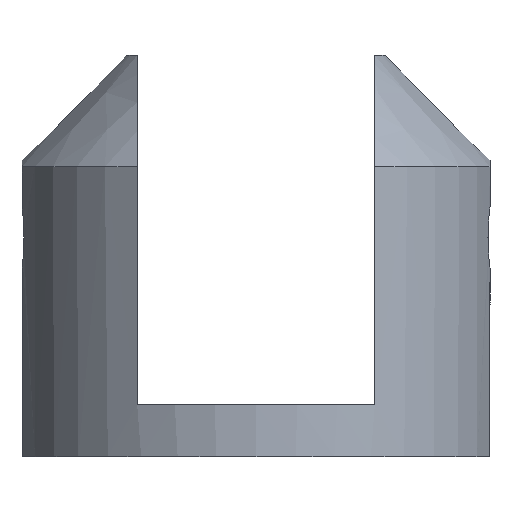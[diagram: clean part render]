
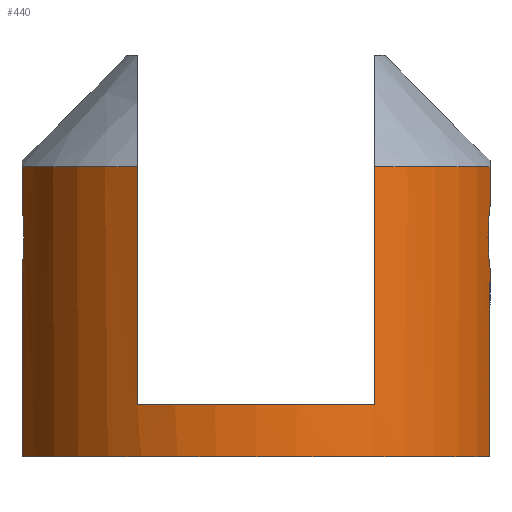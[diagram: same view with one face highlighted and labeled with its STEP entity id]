
A CAD part, left-side view. The second image highlights one B-rep face of the part: STEP entity #440.
In plain terms, the highlighted cylindrical face has radius 6.5 mm (diameter 13 mm), a partial arc.
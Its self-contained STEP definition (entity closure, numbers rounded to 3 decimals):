
#63=FACE_OUTER_BOUND('',#87,.T.);
#87=EDGE_LOOP('',(#402,#403,#404,#405,#406,#407,#408,#409,#410,#411,#412,
#413));
#89=B_SPLINE_CURVE_WITH_KNOTS('',3,(#643,#644,#645,#646,#647,#648,#649,
#650,#651,#652),.UNSPECIFIED.,.F.,.F.,(4,2,2,2,4),(0.463,0.477,
0.546,0.614,0.628),.UNSPECIFIED.);
#90=B_SPLINE_CURVE_WITH_KNOTS('',3,(#659,#660,#661,#662,#663,#664,#665,
#666,#667,#668),.UNSPECIFIED.,.F.,.F.,(4,2,2,2,4),(0.463,0.477,
0.546,0.614,0.628),.UNSPECIFIED.);
#94=LINE('',#689,#122);
#97=LINE('',#702,#125);
#105=LINE('',#740,#133);
#107=LINE('',#759,#135);
#114=LINE('',#781,#142);
#118=LINE('',#792,#146);
#122=VECTOR('',#526,10.);
#125=VECTOR('',#531,10.);
#133=VECTOR('',#551,10.);
#135=VECTOR('',#565,10.);
#142=VECTOR('',#574,10.);
#146=VECTOR('',#586,10.);
#157=CIRCLE('',#469,6.5);
#161=CIRCLE('',#476,6.5);
#170=CIRCLE('',#495,6.5);
#171=CIRCLE('',#498,6.5);
#176=VERTEX_POINT('',#640);
#177=VERTEX_POINT('',#642);
#178=VERTEX_POINT('',#655);
#180=VERTEX_POINT('',#658);
#184=VERTEX_POINT('',#688);
#187=VERTEX_POINT('',#698);
#191=VERTEX_POINT('',#711);
#199=VERTEX_POINT('',#738);
#200=VERTEX_POINT('',#742);
#204=VERTEX_POINT('',#758);
#212=VERTEX_POINT('',#780);
#215=VERTEX_POINT('',#791);
#221=EDGE_CURVE('',#177,#176,#89,.T.);
#224=EDGE_CURVE('',#180,#178,#90,.T.);
#230=EDGE_CURVE('',#177,#184,#94,.T.);
#235=EDGE_CURVE('',#187,#178,#97,.T.);
#239=EDGE_CURVE('',#191,#187,#157,.T.);
#250=EDGE_CURVE('',#191,#199,#105,.T.);
#255=EDGE_CURVE('',#184,#200,#161,.T.);
#257=EDGE_CURVE('',#204,#200,#107,.T.);
#266=EDGE_CURVE('',#212,#176,#114,.T.);
#272=EDGE_CURVE('',#180,#215,#118,.T.);
#280=EDGE_CURVE('',#204,#199,#170,.F.);
#281=EDGE_CURVE('',#215,#212,#171,.T.);
#402=ORIENTED_EDGE('',*,*,#221,.T.);
#403=ORIENTED_EDGE('',*,*,#266,.F.);
#404=ORIENTED_EDGE('',*,*,#281,.F.);
#405=ORIENTED_EDGE('',*,*,#272,.F.);
#406=ORIENTED_EDGE('',*,*,#224,.T.);
#407=ORIENTED_EDGE('',*,*,#235,.F.);
#408=ORIENTED_EDGE('',*,*,#239,.F.);
#409=ORIENTED_EDGE('',*,*,#250,.T.);
#410=ORIENTED_EDGE('',*,*,#280,.F.);
#411=ORIENTED_EDGE('',*,*,#257,.T.);
#412=ORIENTED_EDGE('',*,*,#255,.F.);
#413=ORIENTED_EDGE('',*,*,#230,.F.);
#419=CYLINDRICAL_SURFACE('',#499,6.5);
#440=ADVANCED_FACE('',(#63),#419,.T.);
#469=AXIS2_PLACEMENT_3D('',#715,#536,#537);
#476=AXIS2_PLACEMENT_3D('',#754,#558,#559);
#495=AXIS2_PLACEMENT_3D('',#805,#610,#611);
#498=AXIS2_PLACEMENT_3D('',#808,#616,#617);
#499=AXIS2_PLACEMENT_3D('',#809,#618,#619);
#526=DIRECTION('',(0.,0.,1.));
#531=DIRECTION('',(0.,0.,-1.));
#536=DIRECTION('center_axis',(0.,0.,
1.));
#537=DIRECTION('ref_axis',(-1.,0.,0.));
#551=DIRECTION('',(0.,0.,-1.));
#558=DIRECTION('center_axis',(0.,0.,
1.));
#559=DIRECTION('ref_axis',(-1.,0.,0.));
#565=DIRECTION('',(0.,0.,1.));
#574=DIRECTION('',(0.,0.,1.));
#586=DIRECTION('',(0.,0.,-1.));
#610=DIRECTION('center_axis',(0.,0.,
-1.));
#611=DIRECTION('ref_axis',(-1.,0.,0.));
#616=DIRECTION('center_axis',(0.,0.,
-1.));
#617=DIRECTION('ref_axis',(-1.,0.,0.));
#618=DIRECTION('center_axis',(0.,0.,
-1.));
#619=DIRECTION('ref_axis',(-1.,0.,0.));
#640=CARTESIAN_POINT('',(-1.6,6.3,-23.325));
#642=CARTESIAN_POINT('',(-1.6,6.3,-21.675));
#643=CARTESIAN_POINT('Ctrl Pts',(-1.6,6.3,-21.675));
#644=CARTESIAN_POINT('Ctrl Pts',(-1.623,6.294,-21.719));
#645=CARTESIAN_POINT('Ctrl Pts',(-1.643,6.289,-21.764));
#646=CARTESIAN_POINT('Ctrl Pts',(-1.754,6.26,-22.031));
#647=CARTESIAN_POINT('Ctrl Pts',(-1.8,6.246,-22.273));
#648=CARTESIAN_POINT('Ctrl Pts',(-1.8,6.246,-22.727));
#649=CARTESIAN_POINT('Ctrl Pts',(-1.754,6.26,-22.969));
#650=CARTESIAN_POINT('Ctrl Pts',(-1.643,6.289,-23.236));
#651=CARTESIAN_POINT('Ctrl Pts',(-1.623,6.294,-23.281));
#652=CARTESIAN_POINT('Ctrl Pts',(-1.6,6.3,-23.325));
#655=CARTESIAN_POINT('',(-1.6,-6.3,-21.675));
#658=CARTESIAN_POINT('',(-1.6,-6.3,-23.325));
#659=CARTESIAN_POINT('Ctrl Pts',(-1.6,-6.3,-23.325));
#660=CARTESIAN_POINT('Ctrl Pts',(-1.623,-6.294,-23.281));
#661=CARTESIAN_POINT('Ctrl Pts',(-1.643,-6.289,-23.236));
#662=CARTESIAN_POINT('Ctrl Pts',(-1.754,-6.26,-22.969));
#663=CARTESIAN_POINT('Ctrl Pts',(-1.8,-6.246,-22.727));
#664=CARTESIAN_POINT('Ctrl Pts',(-1.8,-6.246,-22.273));
#665=CARTESIAN_POINT('Ctrl Pts',(-1.754,-6.26,-22.031));
#666=CARTESIAN_POINT('Ctrl Pts',(-1.643,-6.289,-21.764));
#667=CARTESIAN_POINT('Ctrl Pts',(-1.623,-6.294,-21.719));
#668=CARTESIAN_POINT('Ctrl Pts',(-1.6,-6.3,-21.675));
#688=CARTESIAN_POINT('',(-1.6,6.3,-20.6));
#689=CARTESIAN_POINT('',(-1.6,6.3,-17.9));
#698=CARTESIAN_POINT('',(-1.6,-6.3,-20.6));
#702=CARTESIAN_POINT('',(-1.6,-6.3,-17.9));
#711=CARTESIAN_POINT('',(-5.658,-3.2,-20.6));
#715=CARTESIAN_POINT('Origin',(0.,0.,
-20.6));
#738=CARTESIAN_POINT('',(-5.658,-3.2,-27.));
#740=CARTESIAN_POINT('',(-5.658,-3.2,-17.9));
#742=CARTESIAN_POINT('',(-5.658,3.2,-20.6));
#754=CARTESIAN_POINT('Origin',(0.,0.,
-20.6));
#758=CARTESIAN_POINT('',(-5.658,3.2,-27.));
#759=CARTESIAN_POINT('',(-5.658,3.2,-17.9));
#780=CARTESIAN_POINT('',(-1.6,6.3,-28.4));
#781=CARTESIAN_POINT('',(-1.6,6.3,-17.9));
#791=CARTESIAN_POINT('',(-1.6,-6.3,-28.4));
#792=CARTESIAN_POINT('',(-1.6,-6.3,-17.9));
#805=CARTESIAN_POINT('Origin',(0.,0.,
-27.));
#808=CARTESIAN_POINT('Origin',(0.,0.,
-28.4));
#809=CARTESIAN_POINT('Origin',(0.,0.,
-17.9));
